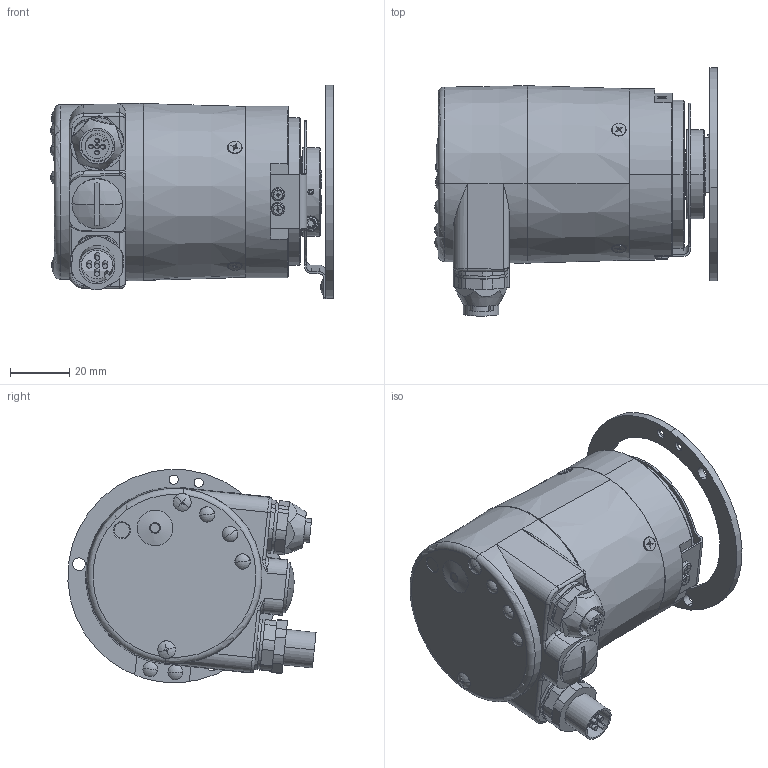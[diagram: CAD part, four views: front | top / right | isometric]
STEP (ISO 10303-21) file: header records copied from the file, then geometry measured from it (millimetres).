
FILE_DESCRIPTION (( 'STEP AP214' ), '1' );
FILE_NAME ('5888.3422.XXXX.STEP', '2008-07-11T11:54:55', ( 'admin' ), ( 'Fritz Kübler GmbH' ), 'SwSTEP 2.0', 'SolidWorks 2007', '' );
FILE_SCHEMA (( 'AUTOMOTIVE_DESIGN' ));
Length unit declared in the file: millimetre
Products named in the file (1): 5888.3422.XXXX
Bounding box: 95.4 x 83.72 x 71.93 mm (x, y, z)
Surface area: 37176 mm2 (no closed solid volume)
Topology: 0 solids, 34 shells, 516 faces, 1450 edges, 959 vertices
Faces by surface type: plane 218, cylinder 190, cone 65, torus 18, sphere 17, bspline 8
Entity records: 23219 total; most frequent: CARTESIAN_POINT 4017, DIRECTION 2992, ORIENTED_EDGE 2567, EDGE_CURVE 1445, AXIS2_PLACEMENT_3D 1126, VERTEX_POINT 959, VECTOR 740, LINE 740
